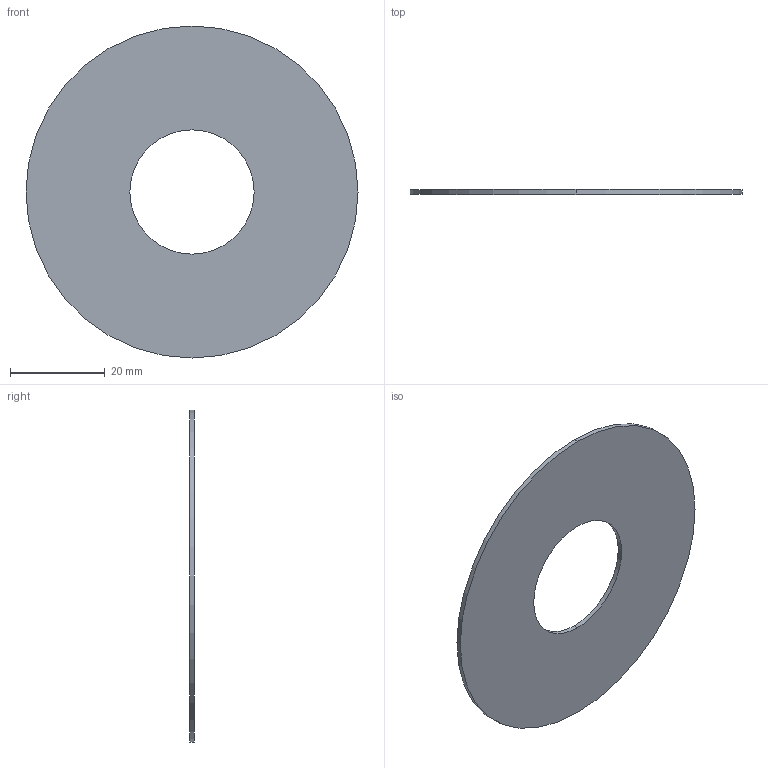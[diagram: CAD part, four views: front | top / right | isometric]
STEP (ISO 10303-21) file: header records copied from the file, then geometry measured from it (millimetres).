
FILE_DESCRIPTION (( 'STEP AP203' ), '1' );
FILE_NAME ('B3-7603.STEP', '2013-07-23T12:25:50', ( 'edv' ), ( '' ), 'SwSTEP 2.0', 'SolidWorks 2013', '' );
FILE_SCHEMA (( 'CONFIG_CONTROL_DESIGN' ));
Length unit declared in the file: millimetre
Products named in the file (1): B3-7603
Bounding box: 70 x 1 x 70 mm (x, y, z)
Volume: 3309.3 mm3; surface area: 6920.9 mm2
Topology: 1 solids, 1 shells, 6 faces, 12 edges, 8 vertices
Faces by surface type: cylinder 4, plane 2
Entity records: 245 total; most frequent: DIRECTION 34, CARTESIAN_POINT 27, ORIENTED_EDGE 24, AXIS2_PLACEMENT_3D 15, EDGE_CURVE 12, VERTEX_POINT 8, EDGE_LOOP 8, PERSON_AND_ORGANIZATION 8
